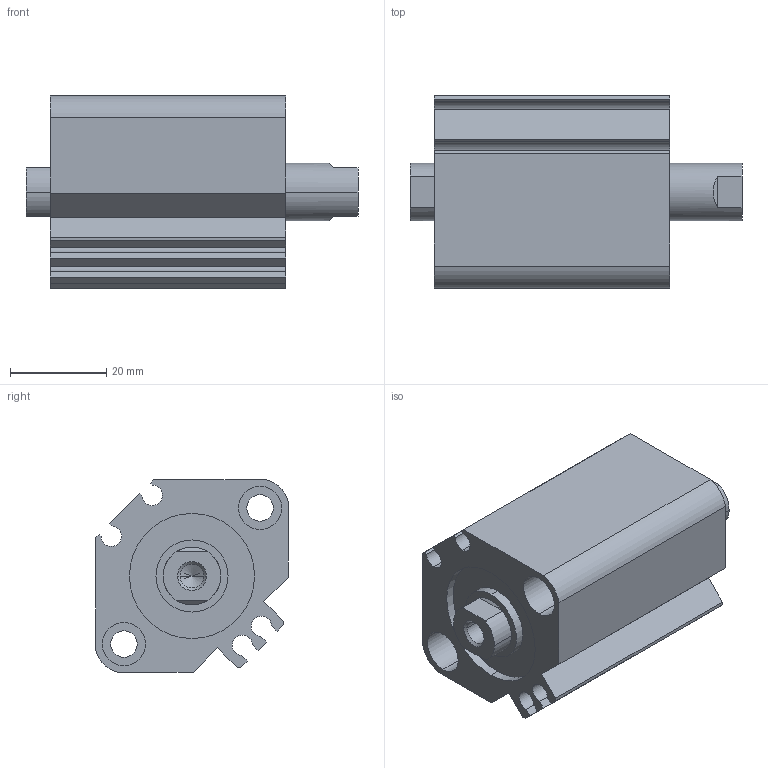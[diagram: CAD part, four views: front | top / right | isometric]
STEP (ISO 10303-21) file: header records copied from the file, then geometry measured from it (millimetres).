
FILE_DESCRIPTION (( 'STEP AP203' ), '1' );
FILE_NAME ('CCMB25-10F-P.STEP', '2020-08-05T11:08:41', ( '' ), ( '' ), 'SwSTEP 2.0', 'SolidWorks 2019', '' );
FILE_SCHEMA (( 'CONFIG_CONTROL_DESIGN' ));
Length unit declared in the file: millimetre
Products named in the file (1): CCMB25-10F-P
Bounding box: 69 x 40 x 40 mm (x, y, z)
Volume: 58630.9 mm3; surface area: 22546.7 mm2
Topology: 2 solids, 2 shells, 114 faces, 276 edges, 178 vertices
Faces by surface type: cylinder 52, plane 50, cone 12
Entity records: 3419 total; most frequent: DIRECTION 614, CARTESIAN_POINT 577, ORIENTED_EDGE 544, EDGE_CURVE 272, AXIS2_PLACEMENT_3D 231, VERTEX_POINT 178, LINE 152, VECTOR 152
